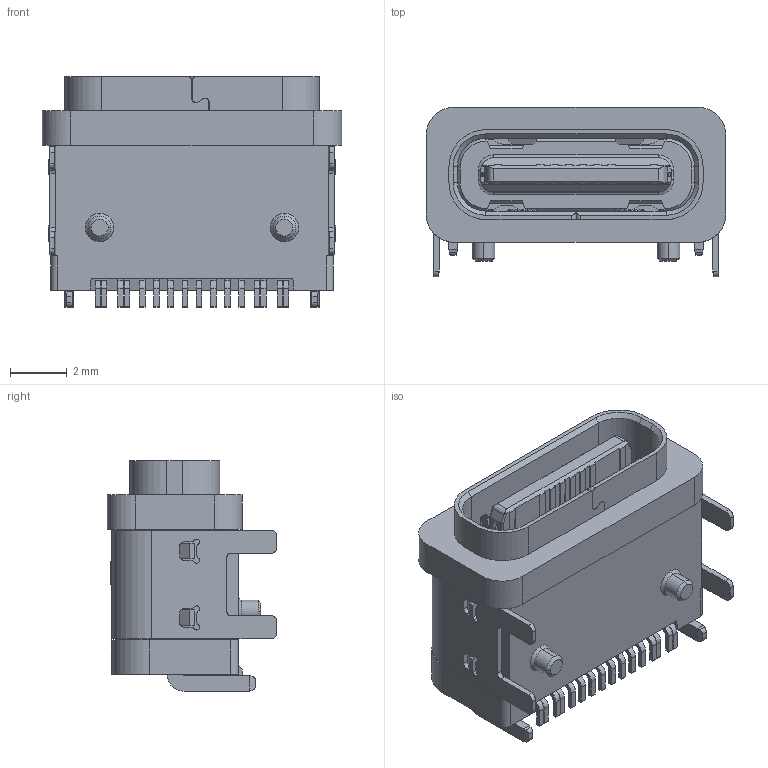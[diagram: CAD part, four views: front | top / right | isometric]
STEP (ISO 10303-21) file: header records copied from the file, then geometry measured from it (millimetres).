
FILE_DESCRIPTION (( 'STEP AP203' ), '1' );
FILE_NAME ('U5247-16PN7.5LF.STEP', '2026-09-01T02:30:25', ( '' ), ( '' ), 'SwSTEP 2.0', 'SolidWorks 2024', '' );
FILE_SCHEMA (( 'CONFIG_CONTROL_DESIGN' ));
Length unit declared in the file: millimetre
Products named in the file (1): U5247-16PN7.5LF
Bounding box: 10.54 x 5.97 x 8.1 mm (x, y, z)
Volume: 232.2 mm3; surface area: 558.2 mm2
Topology: 1 solids, 7 shells, 955 faces, 2572 edges, 1672 vertices
Faces by surface type: plane 564, cylinder 290, torus 52, bspline 25, cone 24
Entity records: 31323 total; most frequent: CARTESIAN_POINT 7094, ORIENTED_EDGE 5144, DIRECTION 4952, EDGE_CURVE 2572, VECTOR 1800, LINE 1800, VERTEX_POINT 1672, AXIS2_PLACEMENT_3D 1576
